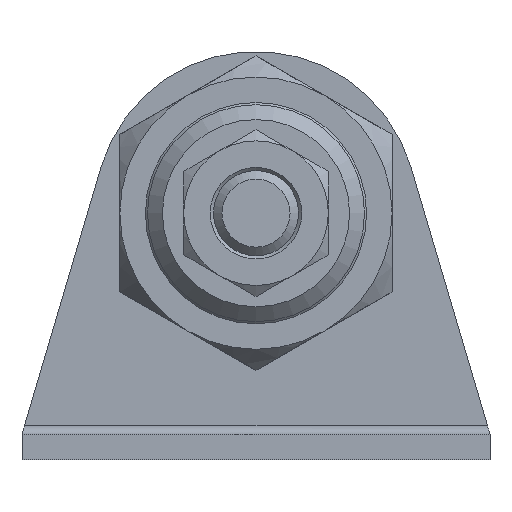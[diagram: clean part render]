
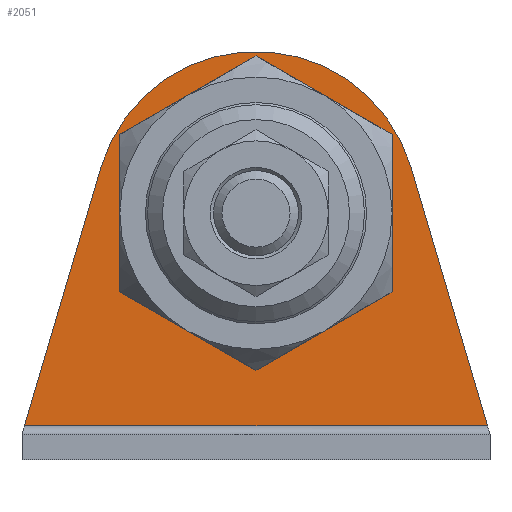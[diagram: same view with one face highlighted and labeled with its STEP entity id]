
A CAD part, front view. The second image highlights one B-rep face of the part: STEP entity #2051.
In plain terms, the highlighted planar face has unit normal (0, -1, 0).
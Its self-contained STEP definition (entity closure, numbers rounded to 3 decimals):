
#48=LINE('',#3026,#102);
#50=LINE('',#3036,#104);
#51=LINE('',#3041,#105);
#102=VECTOR('',#2559,1000.);
#104=VECTOR('',#2571,1000.);
#105=VECTOR('',#2578,1000.);
#241=PLANE('',#2241);
#461=ORIENTED_EDGE('',*,*,#748,.F.);
#462=ORIENTED_EDGE('',*,*,#747,.T.);
#463=ORIENTED_EDGE('',*,*,#749,.T.);
#464=ORIENTED_EDGE('',*,*,#742,.T.);
#465=ORIENTED_EDGE('',*,*,#745,.T.);
#742=EDGE_CURVE('',#907,#906,#48,.T.);
#745=EDGE_CURVE('',#906,#908,#1012,.T.);
#747=EDGE_CURVE('',#908,#909,#50,.T.);
#748=EDGE_CURVE('',#910,#910,#1013,.T.);
#749=EDGE_CURVE('',#909,#907,#51,.T.);
#906=VERTEX_POINT('',#3025);
#907=VERTEX_POINT('',#3027);
#908=VERTEX_POINT('',#3031);
#909=VERTEX_POINT('',#3035);
#910=VERTEX_POINT('',#3039);
#1012=CIRCLE('',#2236,19.);
#1013=CIRCLE('',#2240,13.);
#1137=EDGE_LOOP('',(#461));
#1138=EDGE_LOOP('',(#462,#463,#464,#465));
#1293=FACE_BOUND('',#1137,.T.);
#1294=FACE_BOUND('',#1138,.T.);
#2051=ADVANCED_FACE('',(#1293,#1294),#241,.T.);
#2236=AXIS2_PLACEMENT_3D('',#3032,#2565,#2566);
#2240=AXIS2_PLACEMENT_3D('',#3038,#2574,#2575);
#2241=AXIS2_PLACEMENT_3D('',#3040,#2576,#2577);
#2559=DIRECTION('',(-0.284,0.,0.959));
#2565=DIRECTION('',(0.,-1.,0.));
#2566=DIRECTION('',(1.,0.,0.));
#2571=DIRECTION('',(-0.284,0.,-0.959));
#2574=DIRECTION('',(0.,-1.,0.));
#2575=DIRECTION('',(-1.,0.,0.));
#2576=DIRECTION('',(0.,-1.,0.));
#2577=DIRECTION('',(0.,0.,-1.));
#2578=DIRECTION('',(1.,0.,0.));
#3025=CARTESIAN_POINT('',(18.22,-3.,5.387));
#3026=CARTESIAN_POINT('',(27.5,-3.,-26.));
#3027=CARTESIAN_POINT('',(27.204,-3.,-25.));
#3031=CARTESIAN_POINT('',(-18.22,-3.,5.387));
#3032=CARTESIAN_POINT('',(0.,-3.,0.));
#3035=CARTESIAN_POINT('',(-27.204,-3.,-25.));
#3036=CARTESIAN_POINT('',(-27.5,-3.,-26.));
#3038=CARTESIAN_POINT('',(0.,-3.,0.));
#3039=CARTESIAN_POINT('',(-13.,-3.,0.));
#3040=CARTESIAN_POINT('',(0.,-3.,0.));
#3041=CARTESIAN_POINT('',(0.,-3.,-25.));
